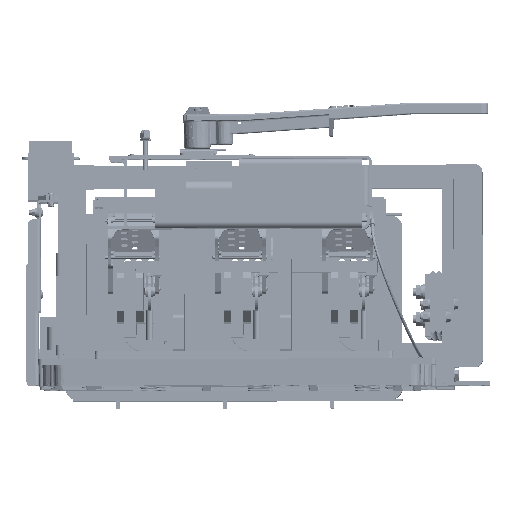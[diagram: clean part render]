
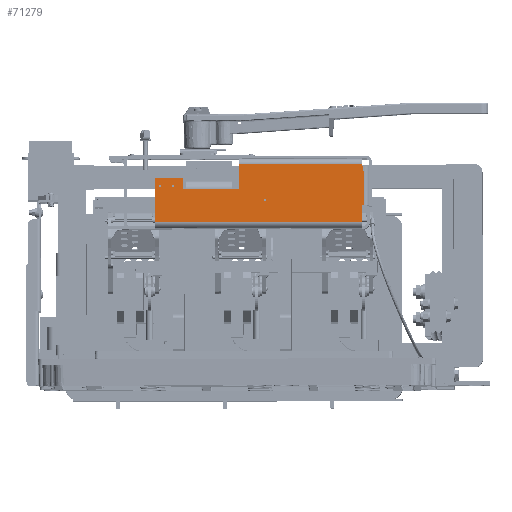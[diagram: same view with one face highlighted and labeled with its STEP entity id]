
A CAD part, front view. The second image highlights one B-rep face of the part: STEP entity #71279.
In plain terms, the highlighted planar face has unit normal (-0.004, -1, 0.016) as drawn and (0, 0, -1) by its records, which use the part's own axes.
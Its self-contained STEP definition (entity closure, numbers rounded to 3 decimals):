
#3523=FACE_BOUND('',#13263,.T.);
#3524=FACE_BOUND('',#13264,.T.);
#3525=FACE_BOUND('',#13265,.T.);
#5444=PLANE('',#79477);
#8631=FACE_OUTER_BOUND('',#13262,.T.);
#13262=EDGE_LOOP('',(#59948,#59949,#59950,#59951,#59952,#59953,#59954,#59955,
#59956,#59957,#59958,#59959,#59960,#59961));
#13263=EDGE_LOOP('',(#59962));
#13264=EDGE_LOOP('',(#59963));
#13265=EDGE_LOOP('',(#59964));
#17435=CIRCLE('',#79435,0.078);
#17437=CIRCLE('',#79438,0.078);
#17439=CIRCLE('',#79441,0.078);
#22508=LINE('',#119126,#28381);
#22512=LINE('',#119140,#28385);
#22521=LINE('',#119161,#28394);
#22522=LINE('',#119165,#28395);
#22526=LINE('',#119173,#28399);
#22530=LINE('',#119179,#28403);
#22535=LINE('',#119198,#28408);
#22536=LINE('',#119200,#28409);
#22537=LINE('',#119202,#28410);
#22538=LINE('',#119204,#28411);
#22539=LINE('',#119206,#28412);
#22540=LINE('',#119208,#28413);
#22541=LINE('',#119210,#28414);
#22542=LINE('',#119211,#28415);
#28381=VECTOR('',#95979,0.394);
#28385=VECTOR('',#95997,0.394);
#28394=VECTOR('',#96016,0.394);
#28395=VECTOR('',#96019,0.394);
#28399=VECTOR('',#96025,0.394);
#28403=VECTOR('',#96031,0.394);
#28408=VECTOR('',#96050,0.394);
#28409=VECTOR('',#96051,0.394);
#28410=VECTOR('',#96052,0.288);
#28411=VECTOR('',#96053,0.394);
#28412=VECTOR('',#96054,0.394);
#28413=VECTOR('',#96055,0.394);
#28414=VECTOR('',#96056,0.288);
#28415=VECTOR('',#96057,0.394);
#34619=VERTEX_POINT('',#119067);
#34621=VERTEX_POINT('',#119073);
#34623=VERTEX_POINT('',#119079);
#34636=VERTEX_POINT('',#119123);
#34637=VERTEX_POINT('',#119125);
#34640=VERTEX_POINT('',#119139);
#34642=VERTEX_POINT('',#119145);
#34648=VERTEX_POINT('',#119163);
#34649=VERTEX_POINT('',#119164);
#34652=VERTEX_POINT('',#119172);
#34660=VERTEX_POINT('',#119197);
#34661=VERTEX_POINT('',#119199);
#34662=VERTEX_POINT('',#119201);
#34663=VERTEX_POINT('',#119203);
#34664=VERTEX_POINT('',#119205);
#34665=VERTEX_POINT('',#119207);
#34666=VERTEX_POINT('',#119209);
#43384=EDGE_CURVE('',#34619,#34619,#17435,.T.);
#43387=EDGE_CURVE('',#34621,#34621,#17437,.T.);
#43390=EDGE_CURVE('',#34623,#34623,#17439,.T.);
#43412=EDGE_CURVE('',#34637,#34636,#22508,.T.);
#43419=EDGE_CURVE('',#34640,#34637,#22512,.T.);
#43430=EDGE_CURVE('',#34642,#34640,#22521,.T.);
#43431=EDGE_CURVE('',#34648,#34649,#22522,.T.);
#43435=EDGE_CURVE('',#34649,#34652,#22526,.T.);
#43439=EDGE_CURVE('',#34636,#34648,#22530,.T.);
#43448=EDGE_CURVE('',#34660,#34652,#22535,.T.);
#43449=EDGE_CURVE('',#34660,#34661,#22536,.T.);
#43450=EDGE_CURVE('',#34662,#34661,#22537,.T.);
#43451=EDGE_CURVE('',#34662,#34663,#22538,.T.);
#43452=EDGE_CURVE('',#34663,#34664,#22539,.T.);
#43453=EDGE_CURVE('',#34665,#34664,#22540,.T.);
#43454=EDGE_CURVE('',#34666,#34665,#22541,.T.);
#43455=EDGE_CURVE('',#34666,#34642,#22542,.T.);
#59948=ORIENTED_EDGE('',*,*,#43430,.T.);
#59949=ORIENTED_EDGE('',*,*,#43419,.T.);
#59950=ORIENTED_EDGE('',*,*,#43412,.T.);
#59951=ORIENTED_EDGE('',*,*,#43439,.T.);
#59952=ORIENTED_EDGE('',*,*,#43431,.T.);
#59953=ORIENTED_EDGE('',*,*,#43435,.T.);
#59954=ORIENTED_EDGE('',*,*,#43448,.F.);
#59955=ORIENTED_EDGE('',*,*,#43449,.T.);
#59956=ORIENTED_EDGE('',*,*,#43450,.F.);
#59957=ORIENTED_EDGE('',*,*,#43451,.T.);
#59958=ORIENTED_EDGE('',*,*,#43452,.T.);
#59959=ORIENTED_EDGE('',*,*,#43453,.F.);
#59960=ORIENTED_EDGE('',*,*,#43454,.F.);
#59961=ORIENTED_EDGE('',*,*,#43455,.T.);
#59962=ORIENTED_EDGE('',*,*,#43384,.T.);
#59963=ORIENTED_EDGE('',*,*,#43387,.T.);
#59964=ORIENTED_EDGE('',*,*,#43390,.T.);
#71279=ADVANCED_FACE('',(#8631,#3523,#3524,#3525),#5444,.F.);
#79435=AXIS2_PLACEMENT_3D('',#119069,#95919,#95920);
#79438=AXIS2_PLACEMENT_3D('',#119075,#95926,#95927);
#79441=AXIS2_PLACEMENT_3D('',#119081,#95933,#95934);
#79477=AXIS2_PLACEMENT_3D('',#119196,#96048,#96049);
#95919=DIRECTION('center_axis',(0.,0.,
1.));
#95920=DIRECTION('ref_axis',(1.,0.,0.));
#95926=DIRECTION('center_axis',(0.,0.,
1.));
#95927=DIRECTION('ref_axis',(1.,0.,0.));
#95933=DIRECTION('center_axis',(0.,0.,
1.));
#95934=DIRECTION('ref_axis',(1.,0.,0.));
#95979=DIRECTION('',(-1.,0.,0.));
#95997=DIRECTION('',(-1.,0.,0.));
#96016=DIRECTION('',(0.,1.,0.));
#96019=DIRECTION('',(0.,-1.,0.));
#96025=DIRECTION('',(-1.,0.,0.));
#96031=DIRECTION('',(-1.,0.,0.));
#96048=DIRECTION('center_axis',(0.,0.,
1.));
#96049=DIRECTION('ref_axis',(1.,0.,0.));
#96050=DIRECTION('',(0.,-1.,0.));
#96051=DIRECTION('',(1.,0.,0.));
#96052=DIRECTION('',(0.,1.,0.));
#96053=DIRECTION('',(1.,0.,0.));
#96054=DIRECTION('',(0.,-1.,0.));
#96055=DIRECTION('',(1.,0.,0.));
#96056=DIRECTION('',(0.,1.,0.));
#96057=DIRECTION('',(-1.,0.,0.));
#119067=CARTESIAN_POINT('',(13.535,2.054,-0.179));
#119069=CARTESIAN_POINT('Origin',(13.613,2.054,-0.179));
#119073=CARTESIAN_POINT('',(7.566,1.115,-0.179));
#119075=CARTESIAN_POINT('Origin',(7.644,1.115,-0.179));
#119079=CARTESIAN_POINT('',(6.691,1.115,-0.179));
#119081=CARTESIAN_POINT('Origin',(6.769,1.115,-0.179));
#119123=CARTESIAN_POINT('',(8.456,1.302,-0.179));
#119125=CARTESIAN_POINT('',(11.456,1.302,-0.179));
#119126=CARTESIAN_POINT('',(15.706,1.302,-0.179));
#119139=CARTESIAN_POINT('',(11.956,1.302,-0.179));
#119140=CARTESIAN_POINT('',(15.706,1.302,-0.179));
#119145=CARTESIAN_POINT('',(11.956,-0.278,-0.179));
#119161=CARTESIAN_POINT('',(11.956,1.611,-0.179));
#119163=CARTESIAN_POINT('',(8.268,1.302,-0.179));
#119164=CARTESIAN_POINT('',(8.268,0.615,-0.179));
#119165=CARTESIAN_POINT('',(8.268,2.401,-0.179));
#119172=CARTESIAN_POINT('',(6.456,0.615,-0.179));
#119173=CARTESIAN_POINT('',(14.112,0.615,-0.179));
#119179=CARTESIAN_POINT('',(15.706,1.302,-0.179));
#119196=CARTESIAN_POINT('Origin',(19.956,3.5,-0.179));
#119197=CARTESIAN_POINT('',(6.456,3.5,-0.179));
#119198=CARTESIAN_POINT('',(6.456,3.5,-0.179));
#119199=CARTESIAN_POINT('',(19.956,3.5,-0.179));
#119200=CARTESIAN_POINT('',(13.206,3.5,-0.179));
#119201=CARTESIAN_POINT('',(19.956,2.397,-0.179));
#119202=CARTESIAN_POINT('',(19.956,4.404,-0.179));
#119203=CARTESIAN_POINT('',(20.068,2.397,-0.179));
#119204=CARTESIAN_POINT('',(19.956,2.397,-0.179));
#119205=CARTESIAN_POINT('',(20.068,-0.166,-0.179));
#119206=CARTESIAN_POINT('',(20.068,-0.166,-0.179));
#119207=CARTESIAN_POINT('',(19.956,-0.166,-0.179));
#119208=CARTESIAN_POINT('',(19.956,-0.166,-0.179));
#119209=CARTESIAN_POINT('',(19.956,-0.278,-0.179));
#119210=CARTESIAN_POINT('',(19.956,4.404,-0.179));
#119211=CARTESIAN_POINT('',(16.581,-0.278,-0.179));
